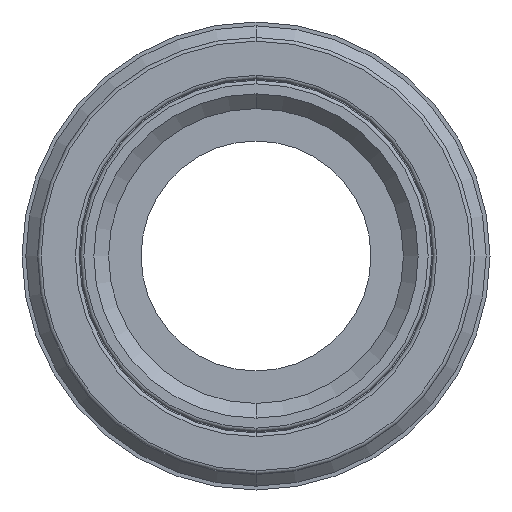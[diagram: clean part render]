
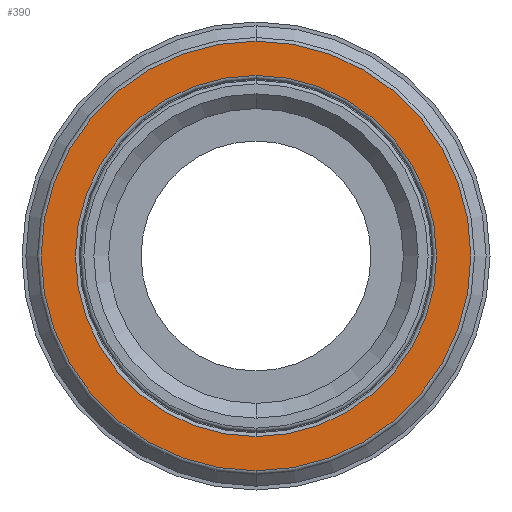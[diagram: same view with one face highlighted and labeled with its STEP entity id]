
A CAD part, front view. The second image highlights one B-rep face of the part: STEP entity #390.
In plain terms, the highlighted planar face has unit normal (0, -1, 0).
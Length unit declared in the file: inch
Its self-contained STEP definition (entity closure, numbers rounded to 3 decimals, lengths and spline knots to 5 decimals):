
#21 = AXIS2_PLACEMENT_3D ( 'NONE', #2091, #404, #1160 ) ;
#41 = DIRECTION ( 'NONE',  ( 0., -1., 0. ) ) ;
#92 = ORIENTED_EDGE ( 'NONE', *, *, #793, .F. ) ;
#299 = CIRCLE ( 'NONE', #1097, 0.49 ) ;
#390 = ADVANCED_FACE ( 'NONE', ( #770, #1008 ), #2305, .T. ) ;
#404 = DIRECTION ( 'NONE',  ( 0., 1., 0. ) ) ;
#448 = EDGE_CURVE ( 'NONE', #1279, #562, #1801, .T. ) ;
#562 = VERTEX_POINT ( 'NONE', #1253 ) ;
#750 = ORIENTED_EDGE ( 'NONE', *, *, #2030, .F. ) ;
#770 = FACE_OUTER_BOUND ( 'NONE', #1706, .T. ) ;
#793 = EDGE_CURVE ( 'NONE', #2261, #1974, #299, .T. ) ;
#806 = EDGE_LOOP ( 'NONE', ( #92, #2288 ) ) ;
#952 = DIRECTION ( 'NONE',  ( 0., 0., 1. ) ) ;
#1008 = FACE_BOUND ( 'NONE', #806, .T. ) ;
#1084 = CARTESIAN_POINT ( 'NONE',  ( 0., 0., 0. ) ) ;
#1097 = AXIS2_PLACEMENT_3D ( 'NONE', #1704, #41, #2442 ) ;
#1160 = DIRECTION ( 'NONE',  ( 0., 0., 1. ) ) ;
#1178 = CARTESIAN_POINT ( 'NONE',  ( 0., 0., -0.48 ) ) ;
#1253 = CARTESIAN_POINT ( 'NONE',  ( 0., 0., -0.583 ) ) ;
#1265 = DIRECTION ( 'NONE',  ( 0., -1., 0. ) ) ;
#1279 = VERTEX_POINT ( 'NONE', #1770 ) ;
#1488 = AXIS2_PLACEMENT_3D ( 'NONE', #1178, #2120, #1940 ) ;
#1491 = AXIS2_PLACEMENT_3D ( 'NONE', #1084, #1265, #1834 ) ;
#1611 = CARTESIAN_POINT ( 'NONE',  ( 0., 0., 0. ) ) ;
#1688 = AXIS2_PLACEMENT_3D ( 'NONE', #1611, #2063, #952 ) ;
#1704 = CARTESIAN_POINT ( 'NONE',  ( 0., 0., 0. ) ) ;
#1706 = EDGE_LOOP ( 'NONE', ( #750, #2064 ) ) ;
#1770 = CARTESIAN_POINT ( 'NONE',  ( 0., 0., 0.583 ) ) ;
#1775 = CARTESIAN_POINT ( 'NONE',  ( 0., 0., -0.49 ) ) ;
#1801 = CIRCLE ( 'NONE', #21, 0.583 ) ;
#1834 = DIRECTION ( 'NONE',  ( 0., 0., 1. ) ) ;
#1940 = DIRECTION ( 'NONE',  ( 0., 0., -1. ) ) ;
#1974 = VERTEX_POINT ( 'NONE', #2169 ) ;
#2017 = EDGE_CURVE ( 'NONE', #1974, #2261, #2394, .T. ) ;
#2030 = EDGE_CURVE ( 'NONE', #562, #1279, #2200, .T. ) ;
#2063 = DIRECTION ( 'NONE',  ( 0., 1., 0. ) ) ;
#2064 = ORIENTED_EDGE ( 'NONE', *, *, #448, .F. ) ;
#2091 = CARTESIAN_POINT ( 'NONE',  ( 0., 0., 0. ) ) ;
#2120 = DIRECTION ( 'NONE',  ( 0., -1., 0. ) ) ;
#2169 = CARTESIAN_POINT ( 'NONE',  ( 0., 0., 0.49 ) ) ;
#2200 = CIRCLE ( 'NONE', #1688, 0.583 ) ;
#2261 = VERTEX_POINT ( 'NONE', #1775 ) ;
#2288 = ORIENTED_EDGE ( 'NONE', *, *, #2017, .F. ) ;
#2305 = PLANE ( 'NONE',  #1488 ) ;
#2394 = CIRCLE ( 'NONE', #1491, 0.49 ) ;
#2442 = DIRECTION ( 'NONE',  ( 0., 0., 1. ) ) ;
